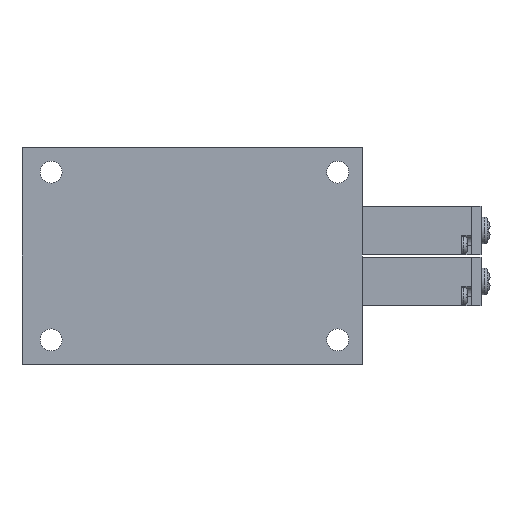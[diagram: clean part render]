
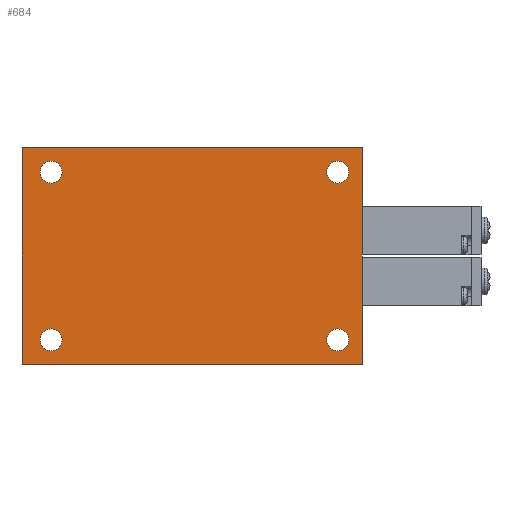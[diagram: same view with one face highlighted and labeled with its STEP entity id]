
A CAD part, front view. The second image highlights one B-rep face of the part: STEP entity #684.
In plain terms, the highlighted planar face has unit normal (0, -1, 0).
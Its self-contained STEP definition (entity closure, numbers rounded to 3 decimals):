
#684=ADVANCED_FACE('',(#1378,#1379,#1380,#1381,#1382),#1383,.F.);
#1378=FACE_OUTER_BOUND('',#2099,.T.);
#1379=FACE_BOUND('',#2100,.T.);
#1380=FACE_BOUND('',#2101,.T.);
#1381=FACE_BOUND('',#2102,.T.);
#1382=FACE_BOUND('',#2103,.T.);
#1383=PLANE('',#2104);
#2099=EDGE_LOOP('',(#4477,#4478,#4479,#4480));
#2100=EDGE_LOOP('',(#4481));
#2101=EDGE_LOOP('',(#4482));
#2102=EDGE_LOOP('',(#4483));
#2103=EDGE_LOOP('',(#4484));
#2104=AXIS2_PLACEMENT_3D('',#4485,#4486,#4487);
#4477=ORIENTED_EDGE('',*,*,#5282,.T.);
#4478=ORIENTED_EDGE('',*,*,#5283,.F.);
#4479=ORIENTED_EDGE('',*,*,#5272,.F.);
#4480=ORIENTED_EDGE('',*,*,#5284,.T.);
#4481=ORIENTED_EDGE('',*,*,#5285,.F.);
#4482=ORIENTED_EDGE('',*,*,#5286,.F.);
#4483=ORIENTED_EDGE('',*,*,#5287,.F.);
#4484=ORIENTED_EDGE('',*,*,#5288,.F.);
#4485=CARTESIAN_POINT('',(0.0,0.0,22.25));
#4486=DIRECTION('',(-0.0,1.0,0.0));
#4487=DIRECTION('',(1.0,0.0,0.0));
#5272=EDGE_CURVE('',#6513,#6515,#6516,.T.);
#5282=EDGE_CURVE('',#6534,#6535,#6536,.T.);
#5283=EDGE_CURVE('',#6515,#6535,#6537,.T.);
#5284=EDGE_CURVE('',#6513,#6534,#6538,.T.);
#5285=EDGE_CURVE('',#6539,#6539,#6540,.T.);
#5286=EDGE_CURVE('',#6541,#6541,#6542,.T.);
#5287=EDGE_CURVE('',#6543,#6543,#6544,.T.);
#5288=EDGE_CURVE('',#6545,#6545,#6546,.T.);
#6513=VERTEX_POINT('',#8614);
#6515=VERTEX_POINT('',#8617);
#6516=LINE('',#8618,#8619);
#6534=VERTEX_POINT('',#8638);
#6535=VERTEX_POINT('',#8639);
#6536=LINE('',#8640,#8641);
#6537=LINE('',#8642,#8643);
#6538=LINE('',#8644,#8645);
#6539=VERTEX_POINT('',#8646);
#6540=CIRCLE('',#8647,2.25);
#6541=VERTEX_POINT('',#8648);
#6542=CIRCLE('',#8649,2.25);
#6543=VERTEX_POINT('',#8650);
#6544=CIRCLE('',#8651,2.25);
#6545=VERTEX_POINT('',#8652);
#6546=CIRCLE('',#8653,2.25);
#8614=CARTESIAN_POINT('',(0.0,0.0,22.25));
#8617=CARTESIAN_POINT('',(70.0,0.0,22.25));
#8618=CARTESIAN_POINT('',(0.0,0.0,22.25));
#8619=VECTOR('',#9682,1.0);
#8638=CARTESIAN_POINT('',(0.0,0.0,-22.25));
#8639=CARTESIAN_POINT('',(70.0,0.0,-22.25));
#8640=CARTESIAN_POINT('',(0.0,0.0,-22.25));
#8641=VECTOR('',#9708,1.0);
#8642=CARTESIAN_POINT('',(70.0,0.0,22.25));
#8643=VECTOR('',#9709,1.0);
#8644=CARTESIAN_POINT('',(0.0,0.0,22.25));
#8645=VECTOR('',#9710,1.0);
#8646=CARTESIAN_POINT('',(6.0,0.0,19.5));
#8647=AXIS2_PLACEMENT_3D('',#9711,#9712,#9713);
#8648=CARTESIAN_POINT('',(65.0,0.0,-15.0));
#8649=AXIS2_PLACEMENT_3D('',#9714,#9715,#9716);
#8650=CARTESIAN_POINT('',(6.0,0.0,-15.0));
#8651=AXIS2_PLACEMENT_3D('',#9717,#9718,#9719);
#8652=CARTESIAN_POINT('',(65.0,0.0,19.5));
#8653=AXIS2_PLACEMENT_3D('',#9720,#9721,#9722);
#9682=DIRECTION('',(1.0,0.0,0.0));
#9708=DIRECTION('',(1.0,0.0,0.0));
#9709=DIRECTION('',(0.0,0.0,-1.0));
#9710=DIRECTION('',(0.0,0.0,-1.0));
#9711=CARTESIAN_POINT('',(6.0,0.0,17.25));
#9712=DIRECTION('',(0.0,-1.0,0.0));
#9713=DIRECTION('',(0.0,0.0,1.0));
#9714=CARTESIAN_POINT('',(65.0,0.0,-17.25));
#9715=DIRECTION('',(0.0,-1.0,0.0));
#9716=DIRECTION('',(0.0,0.0,1.0));
#9717=CARTESIAN_POINT('',(6.0,0.0,-17.25));
#9718=DIRECTION('',(0.0,-1.0,0.0));
#9719=DIRECTION('',(0.0,0.0,1.0));
#9720=CARTESIAN_POINT('',(65.0,0.0,17.25));
#9721=DIRECTION('',(0.0,-1.0,0.0));
#9722=DIRECTION('',(0.0,0.0,1.0));
